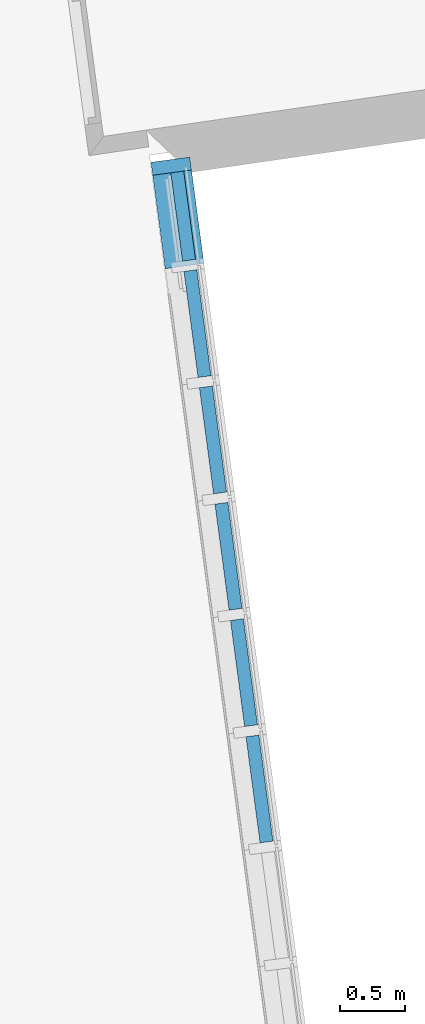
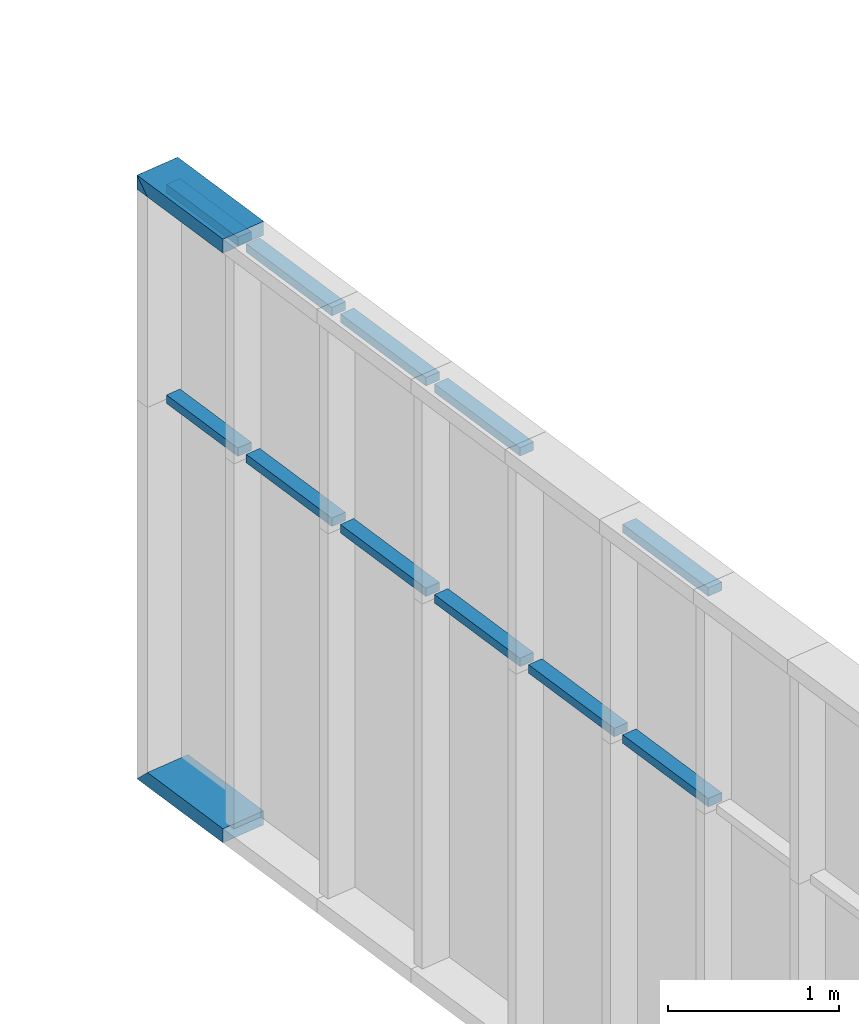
# One storey, part 3 of 17: 14 members, 1 element without a shape of its own.
"""IFC2X3 building model written with IfcOpenShell, lengths in metres."""

import ifcopenshell
import ifcopenshell.guid

model = None  # the IFC model being written
_history = None  # IfcOwnerHistory: only IFC2X3 demands one
_inside = {}  # id of a spatial element -> (the spatial element, [elements in it])
_under = {}  # id of a project, library or spatial element -> (it, [spatial elements below it])
_declared = {}  # id of a project -> (the project, [libraries it declares])
_typed = {}  # id of a type object -> (the type object, [elements of that type])
_made_of = {}  # id of a material, layer set ... -> (it, [elements and type objects made of it])


def new_model(schema):
    """Start an empty IFC model of exactly this schema.

    Asked for "IFC4X3", IfcOpenShell would pick the latest addendum, in which some entities
    have other attributes; the version numbers below select the first issue.
    IFC2X3 requires an IfcOwnerHistory on every rooted entity: one is made here for all.
    """
    global model, _history
    if schema == "IFC4X3":
        model = ifcopenshell.file(schema_version=(4, 3, 0, 0))
    else:
        model = ifcopenshell.file(schema=schema)
    _inside.clear()
    _under.clear()
    _declared.clear()
    _typed.clear()
    _made_of.clear()
    _history = None
    if model.schema == "IFC2X3":
        org = make("IfcOrganization", Name="unknown")
        user = make(
            "IfcPersonAndOrganization",
            ThePerson=make("IfcPerson", FamilyName="unknown"),
            TheOrganization=org,
        )
        app = make(
            "IfcApplication",
            ApplicationDeveloper=org,
            Version="unknown",
            ApplicationFullName="unknown",
            ApplicationIdentifier="unknown",
        )
        _history = make(
            "IfcOwnerHistory",
            OwningUser=user,
            OwningApplication=app,
            ChangeAction="ADDED",
            CreationDate=0,
        )
    return model


def make(cls, **values):
    """One entity of the class cls with the attributes given. An attribute that is None is left unset."""
    return model.create_entity(
        cls, **{name: value for name, value in values.items() if value is not None}
    )


def entity(cls, *values):
    """Any entity or typed value of the class cls, its attributes in the order of the schema. None: left unset."""
    e = model.create_entity(cls)
    for i, value in enumerate(values):
        if value is not None:
            e[i] = value
    return e


def rooted(cls, **values):
    """An entity with a GlobalId (a new one), such as an element, a storey or a relation."""
    return make(cls, GlobalId=ifcopenshell.guid.new(), OwnerHistory=_history, **values)


def si_unit(unit_type, name, prefix=None):
    """IfcSIUnit, for example si_unit("LENGTHUNIT", "METRE", prefix="MILLI")."""
    return make("IfcSIUnit", UnitType=unit_type, Prefix=prefix, Name=name)


def converted_unit(unit_type, name, factor, base, dimensions=None, offset=None):
    """IfcConversionBasedUnit, such as the inch: factor (a typed value) times the base unit."""
    return make(
        "IfcConversionBasedUnit"
        if offset is None
        else "IfcConversionBasedUnitWithOffset",
        ConversionOffset=offset,
        Dimensions=None
        if dimensions is None
        else entity("IfcDimensionalExponents", *dimensions),
        UnitType=unit_type,
        Name=name,
        ConversionFactor=make(
            "IfcMeasureWithUnit", ValueComponent=factor, UnitComponent=base
        ),
    )


def money_unit(currency):
    """IfcMonetaryUnit."""
    return make("IfcMonetaryUnit", Currency=currency)


def assignment(units):
    """IfcUnitAssignment: the units of a project."""
    return None if units is None else make("IfcUnitAssignment", Units=units)


def point(xyz):
    """IfcCartesianPoint."""
    return None if xyz is None else make("IfcCartesianPoint", Coordinates=xyz)


def direction(xyz):
    """IfcDirection."""
    return None if xyz is None else make("IfcDirection", DirectionRatios=xyz)


def frame(location, z_axis=None, x_axis=None):
    """IfcAxis2Placement3D, a coordinate frame: its origin and axes. An axis left out is left unset."""
    return make(
        "IfcAxis2Placement3D",
        Location=point(location),
        Axis=direction(z_axis),
        RefDirection=direction(x_axis),
    )


def origin_with_axes():
    """The frame at (0, 0, 0) with the z axis (0, 0, 1) and the x axis (1, 0, 0) written out."""
    return frame((0.0, 0.0, 0.0), z_axis=(0.0, 0.0, 1.0), x_axis=(1.0, 0.0, 0.0))


def place(relative_to, where):
    """IfcLocalPlacement: puts the frame where relative to a parent placement (None: the world)."""
    return make(
        "IfcLocalPlacement", PlacementRelTo=relative_to, RelativePlacement=where
    )


def context(
    kind, dimensions, precision=None, world=None, true_north=None, identifier=None
):
    """IfcGeometricRepresentationContext, for example the 3D "Model" context."""
    return make(
        "IfcGeometricRepresentationContext",
        ContextIdentifier=identifier,
        ContextType=kind,
        CoordinateSpaceDimension=dimensions,
        Precision=precision,
        WorldCoordinateSystem=world,
        TrueNorth=true_north,
    )


def subcontext(parent, identifier, kind, view, scale=None):
    """IfcGeometricRepresentationSubContext, for example "Body" below "Model"."""
    return make(
        "IfcGeometricRepresentationSubContext",
        ContextIdentifier=identifier,
        ContextType=kind,
        ParentContext=parent,
        TargetScale=scale,
        TargetView=view,
    )


def project(units=None, contexts=None):
    """IfcProject with its units and contexts."""
    return rooted(
        "IfcProject",
        Name="project",
        RepresentationContexts=contexts,
        UnitsInContext=assignment(units),
    )


def spatial(cls, under=None, at=None, **own):
    """A site, building, storey or space (cls), placed at a placement, below another one or the project."""
    s = rooted(cls, ObjectPlacement=at, **own)
    if under is not None:
        _under.setdefault(under.id(), (under, []))[1].append(s)
    return s


def polyline(points):
    """IfcPolyline through the points."""
    return make("IfcPolyline", Points=[point(p) for p in points])


def outline(outer, holes=None, kind="AREA"):
    """IfcArbitraryClosedProfileDef: a profile drawn as a closed curve; with holes, ...WithVoids."""
    if holes is None:
        return make("IfcArbitraryClosedProfileDef", ProfileType=kind, OuterCurve=outer)
    return make(
        "IfcArbitraryProfileDefWithVoids",
        ProfileType=kind,
        OuterCurve=outer,
        InnerCurves=holes,
    )


def extrude(swept, where, along, depth):
    """IfcExtrudedAreaSolid: the profile swept, set in the frame where, extruded along a direction by depth."""
    return make(
        "IfcExtrudedAreaSolid",
        SweptArea=swept,
        Position=where,
        ExtrudedDirection=direction(along),
        Depth=depth,
    )


def clip(a, b, op="DIFFERENCE"):
    """IfcBooleanClippingResult: the solid a cut by the half space b."""
    return make(
        "IfcBooleanClippingResult", Operator=op, FirstOperand=a, SecondOperand=b
    )


def halfspace(plane, agree):
    """IfcHalfSpaceSolid: all space on one side of the plane z = 0 of the frame plane."""
    return make(
        "IfcHalfSpaceSolid",
        BaseSurface=make("IfcPlane", Position=plane),
        AgreementFlag=agree,
    )


def shape(context_of_items, identifier, shape_type, items):
    """IfcShapeRepresentation: the items that make up one representation, for example the "Body"."""
    return make(
        "IfcShapeRepresentation",
        ContextOfItems=context_of_items,
        RepresentationIdentifier=identifier,
        RepresentationType=shape_type,
        Items=items,
    )


def material(Name=None, Category=None):
    """IfcMaterial."""
    return make("IfcMaterial", Name=Name, Category=Category)


def made_of(thing, what):
    """Note that an element or type object is made of a material, layer set ...; save() writes the relation."""
    if what is not None:
        _made_of.setdefault(what.id(), (what, []))[1].append(thing)
    return thing


def type_object(cls, material=None, **own):
    """A type object (cls), such as IfcWallType, which elements share."""
    return made_of(rooted(cls, **own), material)


def element(
    cls,
    number,
    at=None,
    inside=None,
    cuts=None,
    type_object=None,
    material=None,
    context=None,
    identifier="Body",
    shape_type=None,
    held_by="IfcProductDefinitionShape",
    body=None,
    shapes=None,
    **own,
):
    """One element of the class cls, such as IfcWall. Its Tag is "e" and its number.

    at: its placement. inside: the storey or other place that contains it. cuts: it is an
    opening in that element (IfcRelVoidsElement). A single representation is given by context,
    identifier, shape_type and body (its items); several are given by shapes. held_by: the class
    of the entity that holds the representations. save() writes the other relations.
    """
    e = rooted(cls, Tag="e%d" % number, ObjectPlacement=at, **own)
    if body is not None:
        shapes = [shape(context, identifier, shape_type, body)]
    if shapes is not None:
        e.Representation = make(held_by, Representations=shapes)
    if inside is not None:
        _inside.setdefault(inside.id(), (inside, []))[1].append(e)
    if cuts is not None:
        rooted(
            "IfcRelVoidsElement", RelatingBuildingElement=cuts, RelatedOpeningElement=e
        )
    if type_object is not None:
        _typed.setdefault(type_object.id(), (type_object, []))[1].append(e)
    return made_of(e, material)


def aggregate(whole, parts):
    """IfcRelAggregates: a whole, such as a stair, and the parts it consists of."""
    return rooted("IfcRelAggregates", RelatingObject=whole, RelatedObjects=parts)


def save(model, path):
    """Write the relations noted so far, then the file.

    IfcRelAggregates (storeys below a building ...), IfcRelContainedInSpatialStructure (elements
    in a storey), IfcRelDefinesByType, IfcRelAssociatesMaterial and IfcRelDeclares: one each for
    every whole, place, type object, material and project.
    """
    for whole, parts in _under.values():
        aggregate(whole, parts)
    for where, things in _inside.values():
        rooted(
            "IfcRelContainedInSpatialStructure",
            RelatedElements=things,
            RelatingStructure=where,
        )
    for kind, things in _typed.values():
        rooted("IfcRelDefinesByType", RelatedObjects=things, RelatingType=kind)
    for what, things in _made_of.values():
        rooted("IfcRelAssociatesMaterial", RelatedObjects=things, RelatingMaterial=what)
    for by, libraries in _declared.values():
        rooted("IfcRelDeclares", RelatingContext=by, RelatedDefinitions=libraries)
    model.write(path)


model = new_model("IFC2X3")

# Units and contexts
model_context = context("Model", 3, precision=1e-05, world=origin_with_axes(), true_north=direction((0.0, 1.0)))
body_context = subcontext(model_context, "Body", "Model", "MODEL_VIEW")
ifc_project = project(units=[si_unit("LENGTHUNIT", "METRE"), si_unit("AREAUNIT", "SQUARE_METRE"), si_unit("VOLUMEUNIT", "CUBIC_METRE"), converted_unit("PLANEANGLEUNIT", "DEGREE", entity("IfcPlaneAngleMeasure", 0.0174532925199), si_unit("PLANEANGLEUNIT", "RADIAN"), dimensions=[0, 0, 0, 0, 0, 0, 0]), si_unit("SOLIDANGLEUNIT", "STERADIAN"), money_unit("EUR"), converted_unit("TIMEUNIT", "Year", entity("IfcTimeMeasure", 31556926.0), si_unit("TIMEUNIT", "SECOND"), dimensions=[0, 0, 0, 0, 0, 0, 0]), si_unit("MASSUNIT", "GRAM"), si_unit("THERMODYNAMICTEMPERATUREUNIT", "DEGREE_CELSIUS"), si_unit("LUMINOUSINTENSITYUNIT", "LUMEN")], contexts=[model_context])

# Site, building, storey
site_placement = place(None, origin_with_axes())
site = spatial("IfcSite", under=ifc_project, at=site_placement, Name="Undefined", CompositionType="ELEMENT")
building_placement = place(site_placement, origin_with_axes())
building = spatial("IfcBuilding", under=site, at=building_placement, Name="Undefined", CompositionType="ELEMENT")
storey_placement = place(building_placement, frame((0.0, 0.0, 9.425), z_axis=(0.0, 0.0, 1.0), x_axis=(1.0, 0.0, 0.0)))
storey = spatial("IfcBuildingStorey", under=building, at=storey_placement, Name="Mezzannine", CompositionType="ELEMENT", Elevation=9.425)

# Curtain wall, members
curtain_wall_type = type_object("IfcCurtainWallType", Name="Type de mur-rideau", PredefinedType="NOTDEFINED")
curtain_wall_placement = place(storey_placement, frame((66.1412459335, 18.707491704, -9.32500003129), z_axis=(0.0, 0.0, 1.0), x_axis=(1.0, 0.0, 0.0)))
curtain_wall = element("IfcCurtainWall", 1, at=curtain_wall_placement, inside=storey, type_object=curtain_wall_type, Name="CurtainWall_02", ObjectType="CURTAIN WALL")
ifc_material = material(Name="25 % 359672764")
member_type_1 = type_object("IfcMemberType", Name="Cadre 100 x 300", PredefinedType="NOTDEFINED")
member_1_placement = place(curtain_wall_placement, frame((-0.0594412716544, 0.446056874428, 0.0), z_axis=(-0.132091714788, 0.991237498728, 0.0), x_axis=(0.0, 0.0, 1.0)))
member_1 = element("IfcMember", 2, at=member_1_placement, type_object=member_type_1, material=ifc_material, Name="Frame-Bnd-412", context=body_context, shape_type="Clipping", body=[
    clip(extrude(outline(polyline([(-0.25, -0.1), (0.05, -0.1), (0.05, 0.0), (-0.25, 0.0), (-0.25, -0.1)])), frame((0.0, 0.0, 0.0), z_axis=(0.0, 0.0, 1.0), x_axis=(0.0, 1.0, 0.0)), (0.0, 0.0, 1.0), 0.822686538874), halfspace(frame((0.411343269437, 0.0, 0.411343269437), z_axis=(-0.707106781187, 0.0, -0.707106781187), x_axis=(0.0, 1.0, 0.0)), True)),
])
member_2_placement = place(curtain_wall_placement, frame((-0.168111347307, 1.26153462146, 4.20000003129), z_axis=(0.0, 0.0, 1.0), x_axis=(0.132091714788, -0.991237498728, 0.0)))
member_2 = element("IfcMember", 3, at=member_2_placement, type_object=member_type_1, material=ifc_material, Name="Frame-Bnd-358", context=body_context, shape_type="Clipping", body=[
    clip(extrude(outline(polyline([(-0.234600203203, -0.13214667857), (0.0627710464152, -0.0925191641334), (0.0495618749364, 0.00660458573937), (-0.247809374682, -0.0330229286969), (-0.234600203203, -0.13214667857)])), frame((0.0, 0.0, 0.0), z_axis=(0.0, 0.0, 1.0), x_axis=(0.132091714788, 0.991237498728, 0.0)), (0.0, 0.0, 1.0), 0.100000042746), halfspace(frame((0.0500000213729, 0.0, 0.05), z_axis=(-0.707106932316, 0.0, -0.707106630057), x_axis=(0.0, 1.0, 0.0)), True)),
])
member_3_placement = place(curtain_wall_placement, frame((-0.168111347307, 1.26153462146, 4.30000007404), z_axis=(0.132091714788, -0.991237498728, -1.0083423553e-07), x_axis=(-1.33193670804e-08, 9.99506754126e-08, -1.0)))
member_3 = element("IfcMember", 4, at=member_3_placement, type_object=member_type_1, material=ifc_material, Name="Frame-Bnd-304", context=body_context, shape_type="Clipping", body=[
    clip(extrude(outline(polyline([(0.25, 0.1), (-0.05, 0.1), (-0.05, 0.0), (0.25, 0.0), (0.25, 0.1)])), frame((0.0, 0.0, 0.0), z_axis=(0.0, 0.0, 1.0), x_axis=(0.0, -1.0, 0.0)), (0.0, 0.0, 1.0), 0.822686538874), halfspace(frame((0.0, 0.0, 0.0), z_axis=(-0.707106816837, 0.0, 0.707106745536), x_axis=(0.0, -1.0, 0.0)), True)),
])
member_type_2 = type_object("IfcMemberType", Name="Traverse 60 x 100", PredefinedType="NOTDEFINED")
member_4_placement = place(curtain_wall_placement, frame((-0.0594412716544, 0.446056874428, 2.70000003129), z_axis=(-0.132091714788, 0.991237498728, 0.0), x_axis=(0.0, 0.0, 1.0)))
member_4 = element("IfcMember", 5, at=member_4_placement, type_object=member_type_2, material=ifc_material, Name="Frame-Trs-078", context=body_context, shape_type="SweptSolid", body=[
    extrude(outline(polyline([(-0.11, -0.03), (-0.01, -0.03), (-0.01, 0.03), (-0.11, 0.03), (-0.11, -0.03)])), frame((0.0, 0.0, 0.04), z_axis=(0.0, 0.0, 1.0), x_axis=(0.0, 1.0, 0.0)), (0.0, 0.0, 1.0), 0.682686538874),
])
member_5_placement = place(curtain_wall_placement, frame((0.534971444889, -4.01451186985, 4.20000003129), z_axis=(-0.132091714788, 0.991237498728, 0.0), x_axis=(0.0, 0.0, 1.0)))
member_5 = element("IfcMember", 6, at=member_5_placement, type_object=member_type_2, material=ifc_material, Name="Frame-Trs-029", context=body_context, shape_type="SweptSolid", body=[
    extrude(outline(polyline([(-0.11, -0.03), (-0.01, -0.03), (-0.01, 0.03), (-0.11, 0.03), (-0.11, -0.03)])), frame((0.0, 0.0, 0.04), z_axis=(0.0, 0.0, 1.0), x_axis=(0.0, 1.0, 0.0)), (0.0, 0.0, 1.0), 0.82),
])
member_6_placement = place(curtain_wall_placement, frame((0.534971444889, -4.01451186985, 2.70000003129), z_axis=(-0.132091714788, 0.991237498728, 0.0), x_axis=(0.0, 0.0, 1.0)))
member_6 = element("IfcMember", 7, at=member_6_placement, type_object=member_type_2, material=ifc_material, Name="Frame-Trs-013", context=body_context, shape_type="SweptSolid", body=[
    extrude(outline(polyline([(-0.11, -0.03), (-0.01, -0.03), (-0.01, 0.03), (-0.11, 0.03), (-0.11, -0.03)])), frame((0.0, 0.0, 0.04), z_axis=(0.0, 0.0, 1.0), x_axis=(0.0, 1.0, 0.0)), (0.0, 0.0, 1.0), 0.82),
])
member_7_placement = place(curtain_wall_placement, frame((0.416088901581, -3.12239812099, 2.70000003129), z_axis=(-0.132091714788, 0.991237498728, 0.0), x_axis=(0.0, 0.0, 1.0)))
member_7 = element("IfcMember", 8, at=member_7_placement, type_object=member_type_2, material=ifc_material, Name="Frame-Trs-013", context=body_context, shape_type="SweptSolid", body=[
    extrude(outline(polyline([(-0.11, -0.03), (-0.00999999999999, -0.03), (-0.00999999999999, 0.03), (-0.11, 0.03), (-0.11, -0.03)])), frame((0.0, 0.0, 0.04), z_axis=(0.0, 0.0, 1.0), x_axis=(0.0, 1.0, 0.0)), (0.0, 0.0, 1.0), 0.82),
])
member_8_placement = place(curtain_wall_placement, frame((0.297206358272, -2.23028437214, 2.70000003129), z_axis=(-0.132091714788, 0.991237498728, 0.0), x_axis=(0.0, 0.0, 1.0)))
member_8 = element("IfcMember", 9, at=member_8_placement, type_object=member_type_2, material=ifc_material, Name="Frame-Trs-013", context=body_context, shape_type="SweptSolid", body=[
    extrude(outline(polyline([(-0.11, -0.03), (-0.01, -0.03), (-0.01, 0.03), (-0.11, 0.03), (-0.11, -0.03)])), frame((0.0, 0.0, 0.04), z_axis=(0.0, 0.0, 1.0), x_axis=(0.0, 1.0, 0.0)), (0.0, 0.0, 1.0), 0.82),
])
member_9_placement = place(curtain_wall_placement, frame((0.178323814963, -1.33817062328, 2.70000003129), z_axis=(-0.132091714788, 0.991237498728, 0.0), x_axis=(0.0, 0.0, 1.0)))
member_9 = element("IfcMember", 10, at=member_9_placement, type_object=member_type_2, material=ifc_material, Name="Frame-Trs-013", context=body_context, shape_type="SweptSolid", body=[
    extrude(outline(polyline([(-0.11, -0.03), (-0.01, -0.03), (-0.01, 0.03), (-0.11, 0.03), (-0.11, -0.03)])), frame((0.0, 0.0, 0.04), z_axis=(0.0, 0.0, 1.0), x_axis=(0.0, 1.0, 0.0)), (0.0, 0.0, 1.0), 0.82),
])
member_10_placement = place(curtain_wall_placement, frame((0.0594412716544, -0.446056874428, 2.70000003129), z_axis=(-0.132091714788, 0.991237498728, 0.0), x_axis=(0.0, 0.0, 1.0)))
member_10 = element("IfcMember", 11, at=member_10_placement, type_object=member_type_2, material=ifc_material, Name="Frame-Trs-013", context=body_context, shape_type="SweptSolid", body=[
    extrude(outline(polyline([(-0.11, -0.03), (-0.01, -0.03), (-0.01, 0.03), (-0.11, 0.03), (-0.11, -0.03)])), frame((0.0, 0.0, 0.04), z_axis=(0.0, 0.0, 1.0), x_axis=(0.0, 1.0, 0.0)), (0.0, 0.0, 1.0), 0.82),
])
member_11_placement = place(curtain_wall_placement, frame((-0.0594412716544, 0.446056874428, 4.20000003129), z_axis=(-0.132091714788, 0.991237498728, 0.0), x_axis=(0.0, 0.0, 1.0)))
member_11 = element("IfcMember", 12, at=member_11_placement, type_object=member_type_2, material=ifc_material, Name="Frame-Trs-077", context=body_context, shape_type="SweptSolid", body=[
    extrude(outline(polyline([(-0.11, -0.03), (-0.01, -0.03), (-0.01, 0.03), (-0.11, 0.03), (-0.11, -0.03)])), frame((0.0, 0.0, 0.04), z_axis=(0.0, 0.0, 1.0), x_axis=(0.0, 1.0, 0.0)), (0.0, 0.0, 1.0), 0.682686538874),
])
member_12_placement = place(curtain_wall_placement, frame((0.297206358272, -2.23028437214, 4.20000003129), z_axis=(-0.132091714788, 0.991237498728, 0.0), x_axis=(0.0, 0.0, 1.0)))
member_12 = element("IfcMember", 13, at=member_12_placement, type_object=member_type_2, material=ifc_material, Name="Frame-Trs-031", context=body_context, shape_type="SweptSolid", body=[
    extrude(outline(polyline([(-0.11, -0.03), (-0.01, -0.03), (-0.01, 0.03), (-0.11, 0.03), (-0.11, -0.03)])), frame((0.0, 0.0, 0.04), z_axis=(0.0, 0.0, 1.0), x_axis=(0.0, 1.0, 0.0)), (0.0, 0.0, 1.0), 0.82),
])
member_13_placement = place(curtain_wall_placement, frame((0.178323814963, -1.33817062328, 4.20000003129), z_axis=(-0.132091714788, 0.991237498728, 0.0), x_axis=(0.0, 0.0, 1.0)))
member_13 = element("IfcMember", 14, at=member_13_placement, type_object=member_type_2, material=ifc_material, Name="Frame-Trs-032", context=body_context, shape_type="SweptSolid", body=[
    extrude(outline(polyline([(-0.11, -0.03), (-0.01, -0.03), (-0.01, 0.03), (-0.11, 0.03), (-0.11, -0.03)])), frame((0.0, 0.0, 0.04), z_axis=(0.0, 0.0, 1.0), x_axis=(0.0, 1.0, 0.0)), (0.0, 0.0, 1.0), 0.82),
])
member_14_placement = place(curtain_wall_placement, frame((0.0594412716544, -0.446056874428, 4.20000003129), z_axis=(-0.132091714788, 0.991237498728, 0.0), x_axis=(0.0, 0.0, 1.0)))
member_14 = element("IfcMember", 15, at=member_14_placement, type_object=member_type_2, material=ifc_material, Name="Frame-Trs-033", context=body_context, shape_type="SweptSolid", body=[
    extrude(outline(polyline([(-0.11, -0.03), (-0.01, -0.03), (-0.01, 0.03), (-0.11, 0.03), (-0.11, -0.03)])), frame((0.0, 0.0, 0.04), z_axis=(0.0, 0.0, 1.0), x_axis=(0.0, 1.0, 0.0)), (0.0, 0.0, 1.0), 0.82),
])
aggregate(curtain_wall, [member_4, member_5, member_6, member_7, member_8, member_9, member_10, member_11, member_1, member_2, member_12, member_13, member_3, member_14])

save(model, "model.ifc")
